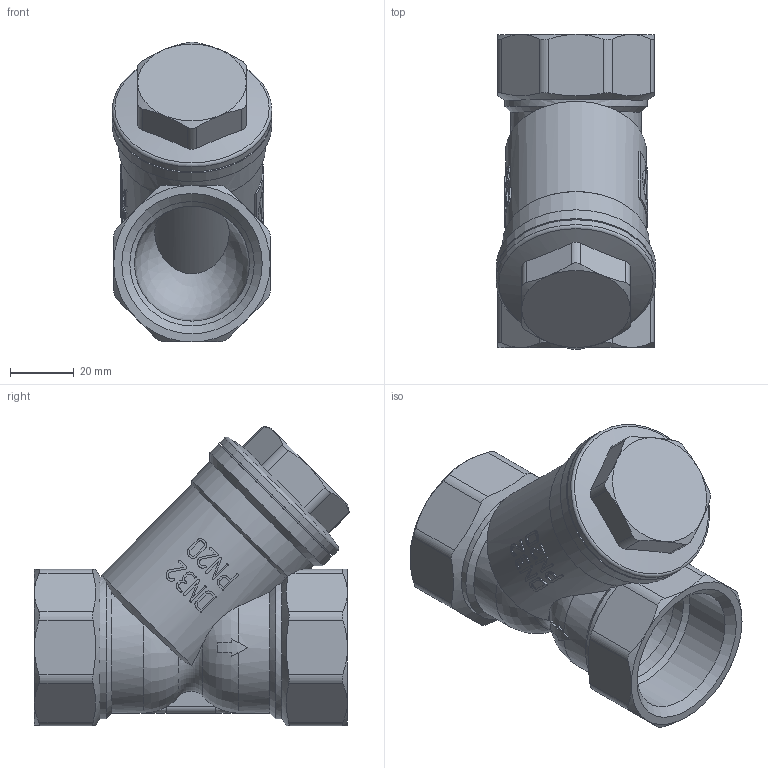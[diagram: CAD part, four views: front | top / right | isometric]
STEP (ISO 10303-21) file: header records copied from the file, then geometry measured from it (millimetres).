
FILE_DESCRIPTION(('STEP AP242'), '1');
FILE_NAME('VT.192.N.07', '', ('UNSPECIFIED'), ('UNSPECIFIED'), 'C3D Converter', 'C3D Toolkit', '');
FILE_SCHEMA(('AP242_MANAGED_MODEL_BASED_3D_ENGINEERING_MIM_LF { 1 0 10303 442 1 1 4 }'));
Length unit declared in the file: millimetre
Products named in the file (1): ВР.061146.020.000 СБ
Bounding box: 50 x 98.68 x 93.88 mm (x, y, z)
Volume: 151685.7 mm3; surface area: 34905 mm2
Topology: 1 solids, 1 shells, 371 faces, 1012 edges, 661 vertices
Faces by surface type: extrusion 141, plane 131, cylinder 53, cone 31, torus 9, bspline 4, sphere 2
Full cylindrical faces by diameter (mm): 31 x1, 36 x2, 38.953 x2, 44.5 x1, 46 x1, 48 x1, 50 x2
Entity records: 22047 total; most frequent: CARTESIAN_POINT 13661, ORIENTED_EDGE 1988, DIRECTION 1214, EDGE_CURVE 994, VERTEX_POINT 661, B_SPLINE_CURVE_WITH_KNOTS 597, VECTOR 490, EDGE_LOOP 407
